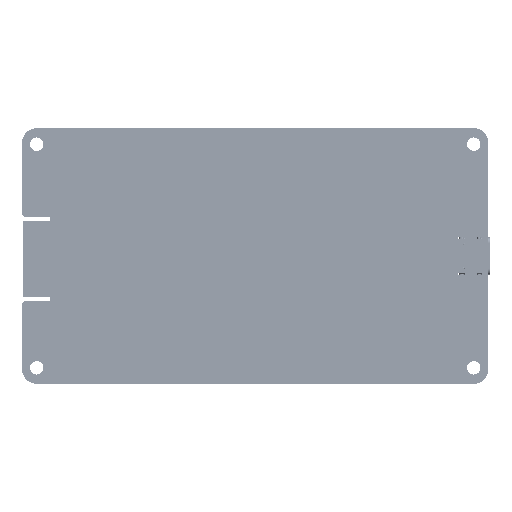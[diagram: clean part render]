
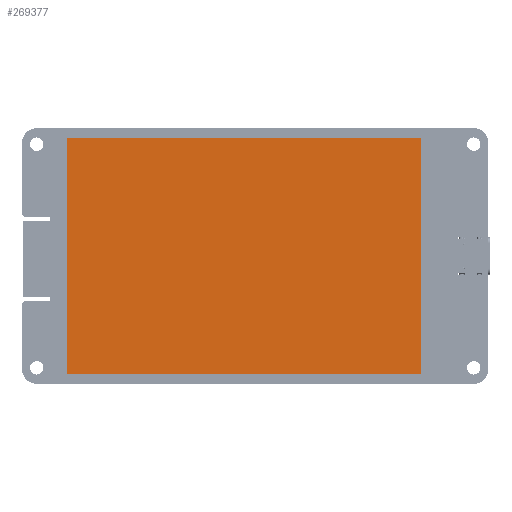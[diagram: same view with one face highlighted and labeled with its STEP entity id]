
A CAD part, top view. The second image highlights one B-rep face of the part: STEP entity #269377.
In plain terms, the highlighted planar face has unit normal (0, 0, 1).
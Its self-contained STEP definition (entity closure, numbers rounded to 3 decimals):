
#269248 = VERTEX_POINT('',#269249);
#269249 = CARTESIAN_POINT('',(-42.16,28.14,1.05));
#269255 = EDGE_CURVE('',#269248,#269256,#269258,.T.);
#269256 = VERTEX_POINT('',#269257);
#269257 = CARTESIAN_POINT('',(42.16,28.14,1.05));
#269258 = LINE('',#269259,#269260);
#269259 = CARTESIAN_POINT('',(-42.16,28.14,1.05));
#269260 = VECTOR('',#269261,1.);
#269261 = DIRECTION('',(1.,0.,0.));
#269286 = EDGE_CURVE('',#269256,#269287,#269289,.T.);
#269287 = VERTEX_POINT('',#269288);
#269288 = CARTESIAN_POINT('',(42.16,-28.14,1.05));
#269289 = LINE('',#269290,#269291);
#269290 = CARTESIAN_POINT('',(42.16,28.14,1.05));
#269291 = VECTOR('',#269292,1.);
#269292 = DIRECTION('',(0.,-1.,0.));
#269317 = EDGE_CURVE('',#269287,#269318,#269320,.T.);
#269318 = VERTEX_POINT('',#269319);
#269319 = CARTESIAN_POINT('',(-42.16,-28.14,1.05));
#269320 = LINE('',#269321,#269322);
#269321 = CARTESIAN_POINT('',(42.16,-28.14,1.05));
#269322 = VECTOR('',#269323,1.);
#269323 = DIRECTION('',(-1.,0.,0.));
#269348 = EDGE_CURVE('',#269318,#269248,#269349,.T.);
#269349 = LINE('',#269350,#269351);
#269350 = CARTESIAN_POINT('',(-42.16,-28.14,1.05));
#269351 = VECTOR('',#269352,1.);
#269352 = DIRECTION('',(0.,1.,0.));
#269377 = ADVANCED_FACE('',(#269378),#269384,.T.);
#269378 = FACE_BOUND('',#269379,.F.);
#269379 = EDGE_LOOP('',(#269380,#269381,#269382,#269383));
#269380 = ORIENTED_EDGE('',*,*,#269255,.T.);
#269381 = ORIENTED_EDGE('',*,*,#269286,.T.);
#269382 = ORIENTED_EDGE('',*,*,#269317,.T.);
#269383 = ORIENTED_EDGE('',*,*,#269348,.T.);
#269384 = PLANE('',#269385);
#269385 = AXIS2_PLACEMENT_3D('',#269386,#269387,#269388);
#269386 = CARTESIAN_POINT('',(-42.16,28.14,1.05));
#269387 = DIRECTION('',(0.,0.,1.));
#269388 = DIRECTION('',(1.,0.,0.));
